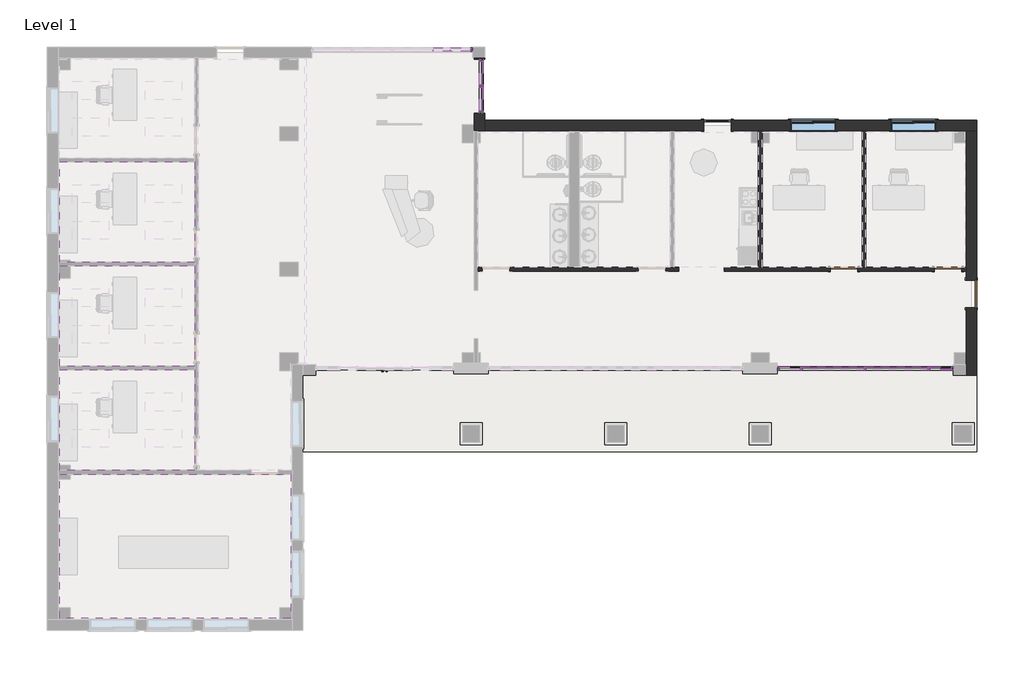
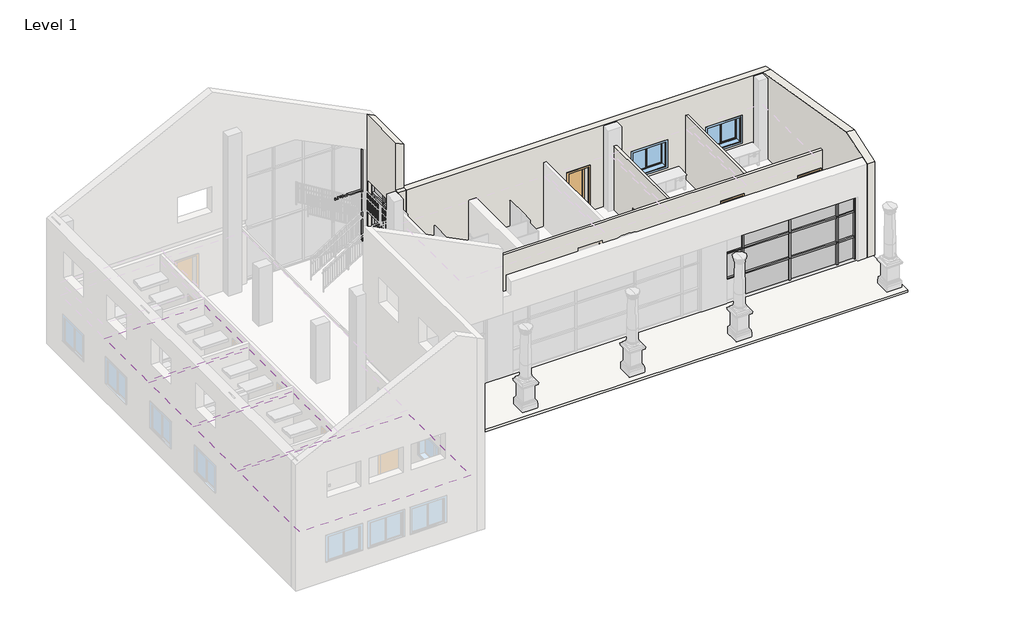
# One storey, part 3 of 8: 43 members, 14 plates, 6 walls, 4 coverings, 4 doors, 2 windows, 1 slab.
"""IFC4 building model written with IfcOpenShell, lengths in millimetres."""

from ifc_helpers import new_model, si_unit, point, frame, origin, origin_with_axes, place, context, project, spatial, polyline, ellipse_curve, trimmed, outline, extrude, faceted_brep, transform, mapped, element, save
from ifc_brep_helpers import plane_surface, extruded_surface, advanced_brep
from components import door_cc5399a4, door_88503111, door_14e9a3b2, member_a715cb85, member_2b49869a, member_4f1c84db, member_c7c5a8a0, member_a43dcf29, member_c4de40ee, member_75074519, member_13dc6413, member_3374d9b6, member_c17f1be2, member_f0fea5a5, member_ee409385, member_7fd7503d, member_c48a49bf, member_ba1b3d85, member_3ca69e07, member_338de68b, member_170a6c2d, member_29905024, member_21124f0b, member_e196a3dc, system_panel_glazed_93fe6fa7, system_panel_glazed_6ce5e085, system_panel_glazed_7b5ce646, system_panel_glazed_6c402c5f, system_panel_glazed_28aac04d, system_panel_glazed_c8a6c6c5, system_panel_glazed_ef97d2b3, system_panel_glazed_2372a917, system_panel_solid_fb0cd2a2, window_8313e728

model = new_model("IFC4")

# Units and contexts
model_context = context("Model", 3, world=origin())
ifc_project = project(units=[si_unit("LENGTHUNIT", "METRE", prefix="MILLI")], contexts=[model_context])

# Site, building, storey
site = spatial("IfcSite", under=ifc_project)
building = spatial("IfcBuilding", under=site)
storey = spatial("IfcBuildingStorey", under=building, Name="Level 1", Elevation=0.0)

# Coverings
placement = place(None, origin())
element("IfcCovering", 1, ObjectType="2' x 4' ACT System", at=placement, inside=storey, context=model_context, shape_type="SweptSolid", body=[
    extrude(outline(polyline([(-13532.9016552, 7087.3730424), (-9011.7016552, 7087.3730424), (-9011.7016552, 3729.8105424), (-13532.9016552, 3729.8105424), (-13532.9016552, 7087.3730424)]), holes=[polyline([(-11881.9016552, 5713.3917924), (-11881.9016552, 6322.9917924), (-13101.1016552, 6322.9917924), (-13101.1016552, 5713.3917924), (-11881.9016552, 5713.3917924)]), polyline([(-10662.7016552, 5713.3917924), (-9443.5016552, 5713.3917924), (-9443.5016552, 6322.9917924), (-10662.7016552, 6322.9917924), (-10662.7016552, 5713.3917924)]), polyline([(-10662.7016552, 4494.1917924), (-9443.5016552, 4494.1917924), (-9443.5016552, 5103.7917924), (-10662.7016552, 5103.7917924), (-10662.7016552, 4494.1917924)]), polyline([(-11881.9016552, 5103.7917924), (-13101.1016552, 5103.7917924), (-13101.1016552, 4494.1917924), (-11881.9016552, 4494.1917924), (-11881.9016552, 5103.7917924)])]), frame((0.0, 0.0, 2438.4), z_axis=(0.0, 0.0, 1.0), x_axis=(1.0, 0.0, 0.0)), (0.0, 0.0, 1.0), 57.15),
])
element("IfcCovering", 2, ObjectType="2' x 4' ACT System", at=placement, inside=storey, context=model_context, shape_type="SweptSolid", body=[
    extrude(outline(polyline([(-13532.9016552, 3605.9855424), (-9011.7016552, 3605.9855424), (-9011.7016552, 248.4230424), (-13532.9016552, 248.4230424), (-13532.9016552, 3605.9855424)]), holes=[polyline([(-11881.9016552, 2232.0042924), (-11881.9016552, 2841.6042924), (-13101.1016552, 2841.6042924), (-13101.1016552, 2232.0042924), (-11881.9016552, 2232.0042924)]), polyline([(-10662.7016552, 2232.0042924), (-9443.5016552, 2232.0042924), (-9443.5016552, 2841.6042924), (-10662.7016552, 2841.6042924), (-10662.7016552, 2232.0042924)]), polyline([(-10662.7016552, 1012.8042924), (-9443.5016552, 1012.8042924), (-9443.5016552, 1622.4042924), (-10662.7016552, 1622.4042924), (-10662.7016552, 1012.8042924)]), polyline([(-11881.9016552, 1622.4042924), (-13101.1016552, 1622.4042924), (-13101.1016552, 1012.8042924), (-11881.9016552, 1012.8042924), (-11881.9016552, 1622.4042924)])]), frame((0.0, 0.0, 2438.4), z_axis=(0.0, 0.0, 1.0), x_axis=(1.0, 0.0, 0.0)), (0.0, 0.0, 1.0), 57.15),
])
element("IfcCovering", 3, ObjectType="2' x 4' ACT System", at=placement, inside=storey, context=model_context, shape_type="SweptSolid", body=[
    extrude(outline(polyline([(-13532.9016552, 124.5980424), (-9011.7016552, 124.5980424), (-9011.7016552, -3232.9644576), (-13532.9016552, -3232.9644576), (-13532.9016552, 124.5980424)]), holes=[polyline([(-11881.9016552, -1249.3832076), (-11881.9016552, -639.7832076), (-13101.1016552, -639.7832076), (-13101.1016552, -1249.3832076), (-11881.9016552, -1249.3832076)]), polyline([(-10662.7016552, -1249.3832076), (-9443.5016552, -1249.3832076), (-9443.5016552, -639.7832076), (-10662.7016552, -639.7832076), (-10662.7016552, -1249.3832076)]), polyline([(-10662.7016552, -2468.5832076), (-9443.5016552, -2468.5832076), (-9443.5016552, -1858.9832076), (-10662.7016552, -1858.9832076), (-10662.7016552, -2468.5832076)]), polyline([(-11881.9016552, -1858.9832076), (-13101.1016552, -1858.9832076), (-13101.1016552, -2468.5832076), (-11881.9016552, -2468.5832076), (-11881.9016552, -1858.9832076)])]), frame((0.0, 0.0, 2438.4), z_axis=(0.0, 0.0, 1.0), x_axis=(1.0, 0.0, 0.0)), (0.0, 0.0, 1.0), 57.15),
])
element("IfcCovering", 4, ObjectType="5/8\" GWB on Mtl. Stud", at=placement, inside=storey, context=model_context, shape_type="SweptSolid", body=[
    extrude(outline(polyline([(-13532.9016552, -3356.7894576), (-5804.9516552, -3356.7894576), (-5804.9516552, -8182.7894576), (-13532.9016552, -8182.7894576), (-13532.9016552, -3356.7894576)])), frame((0.0, 0.0, 2438.4), z_axis=(0.0, 0.0, 1.0), x_axis=(1.0, 0.0, 0.0)), (0.0, 0.0, 1.0), 107.95),
])

# Doors
door_shape = door_cc5399a4(model_context)
element("IfcDoor", 5, ObjectType="Single-Flush : 36\" x 84\"", at=placement, inside=storey, context=model_context, shape_type="MappedRepresentation", body=[
    mapped(door_shape, transform((16977.2608448, 2672.5355424, 0.0), x_axis=(0.0, 1.0, 0.0), y_axis=(-1.0, 0.0, 0.0), z_axis=(0.0, 0.0, 1.0))),
])
door_2_shape = door_88503111(model_context)
element("IfcDoor", 6, ObjectType="Single-Flush : 36\" x 84\"", at=placement, inside=storey, context=model_context, shape_type="MappedRepresentation", body=[
    mapped(door_2_shape, transform((16191.4483448, 3496.4480424, 0.0), x_axis=(1.0, 0.0, 0.0), y_axis=(0.0, 1.0, 0.0), z_axis=(0.0, 0.0, 1.0))),
])
element("IfcDoor", 7, ObjectType="Single-Flush : 36\" x 84\"", at=placement, inside=storey, context=model_context, shape_type="MappedRepresentation", body=[
    mapped(door_2_shape, transform((12714.8233448, 3496.4480424, 0.0), x_axis=(1.0, 0.0, 0.0), y_axis=(0.0, 1.0, 0.0), z_axis=(0.0, 0.0, 1.0))),
])
door_3_shape = door_14e9a3b2(model_context)
element("IfcDoor", 8, ObjectType="Single-Glass 1 : 36\" x 84\"", at=placement, inside=storey, context=model_context, shape_type="MappedRepresentation", body=[
    mapped(door_3_shape, transform((8476.1983448, 8306.5730424, 0.0), x_axis=(1.0, 0.0, 0.0), y_axis=(0.0, 1.0, 0.0), z_axis=(0.0, 0.0, 1.0))),
])

# Members
member_shape = member_a715cb85(model_context)
element("IfcMember", 9, ObjectType="Rectangular Mullion : 2.5\" x 5\" Rectangular", at=placement, inside=storey, context=model_context, shape_type="MappedRepresentation", body=[
    mapped(member_shape, transform((10519.3108448, 175.3980424, 0.0), x_axis=(1.0, 0.0, 0.0), y_axis=(0.0, -1.0, 0.0), z_axis=(0.0, 0.0, -1.0))),
])
element("IfcMember", 10, ObjectType="Rectangular Mullion : 2.5\" x 5\" Rectangular", at=placement, inside=storey, context=model_context, shape_type="MappedRepresentation", body=[
    mapped(member_shape, transform((11281.3108448, 175.3980424, 0.0), x_axis=(1.0, 0.0, 0.0), y_axis=(0.0, -1.0, 0.0), z_axis=(0.0, 0.0, -1.0))),
])
element("IfcMember", 11, ObjectType="Rectangular Mullion : 2.5\" x 5\" Rectangular", at=placement, inside=storey, context=model_context, shape_type="MappedRepresentation", body=[
    mapped(member_shape, transform((13414.9108448, 175.3980424, 0.0), x_axis=(1.0, 0.0, 0.0), y_axis=(0.0, -1.0, 0.0), z_axis=(0.0, 0.0, -1.0))),
])
element("IfcMember", 12, ObjectType="Rectangular Mullion : 2.5\" x 5\" Rectangular", at=placement, inside=storey, context=model_context, shape_type="MappedRepresentation", body=[
    mapped(member_shape, transform((15548.5108448, 175.3980424, 0.0), x_axis=(1.0, 0.0, 0.0), y_axis=(0.0, -1.0, 0.0), z_axis=(0.0, 0.0, -1.0))),
])
member_2_shape = member_2b49869a(model_context)
element("IfcMember", 13, ObjectType="Rectangular Mullion : 2.5\" x 5\" Rectangular", at=placement, inside=storey, context=model_context, shape_type="MappedRepresentation", body=[
    mapped(member_2_shape, transform((10519.3108448, 175.3980424, 1066.8), x_axis=(1.0, 0.0, 0.0), y_axis=(0.0, -1.0, 0.0), z_axis=(0.0, 0.0, -1.0))),
])
element("IfcMember", 14, ObjectType="Rectangular Mullion : 2.5\" x 5\" Rectangular", at=placement, inside=storey, context=model_context, shape_type="MappedRepresentation", body=[
    mapped(member_2_shape, transform((11281.3108448, 175.3980424, 1066.8), x_axis=(1.0, 0.0, 0.0), y_axis=(0.0, -1.0, 0.0), z_axis=(0.0, 0.0, -1.0))),
])
element("IfcMember", 15, ObjectType="Rectangular Mullion : 2.5\" x 5\" Rectangular", at=placement, inside=storey, context=model_context, shape_type="MappedRepresentation", body=[
    mapped(member_2_shape, transform((13414.9108448, 175.3980424, 1066.8), x_axis=(1.0, 0.0, 0.0), y_axis=(0.0, -1.0, 0.0), z_axis=(0.0, 0.0, -1.0))),
])
element("IfcMember", 16, ObjectType="Rectangular Mullion : 2.5\" x 5\" Rectangular", at=placement, inside=storey, context=model_context, shape_type="MappedRepresentation", body=[
    mapped(member_2_shape, transform((15548.5108448, 175.3980424, 1066.8), x_axis=(1.0, 0.0, 0.0), y_axis=(0.0, -1.0, 0.0), z_axis=(0.0, 0.0, -1.0))),
])
member_3_shape = member_4f1c84db(model_context)
element("IfcMember", 17, ObjectType="Rectangular Mullion : 2.5\" x 5\" Rectangular", at=placement, inside=storey, context=model_context, shape_type="MappedRepresentation", body=[
    mapped(member_3_shape, transform((15516.7608448, 175.3980424, 2286.0), x_axis=(0.0, 0.0, 1.0), y_axis=(0.0, -1.0, 0.0), z_axis=(1.0, 0.0, 0.0))),
])
element("IfcMember", 18, ObjectType="Rectangular Mullion : 2.5\" x 5\" Rectangular", at=placement, inside=storey, context=model_context, shape_type="MappedRepresentation", body=[
    mapped(member_3_shape, transform((13383.1608448, 175.3980424, 2286.0), x_axis=(0.0, 0.0, 1.0), y_axis=(0.0, -1.0, 0.0), z_axis=(1.0, 0.0, 0.0))),
])
element("IfcMember", 19, ObjectType="Rectangular Mullion : 2.5\" x 5\" Rectangular", at=placement, inside=storey, context=model_context, shape_type="MappedRepresentation", body=[
    mapped(member_3_shape, transform((13383.1608448, 175.3980424, 1066.8), x_axis=(0.0, 0.0, 1.0), y_axis=(0.0, -1.0, 0.0), z_axis=(1.0, 0.0, 0.0))),
])
element("IfcMember", 20, ObjectType="Rectangular Mullion : 2.5\" x 5\" Rectangular", at=placement, inside=storey, context=model_context, shape_type="MappedRepresentation", body=[
    mapped(member_3_shape, transform((15516.7608448, 175.3980424, 1066.8), x_axis=(0.0, 0.0, 1.0), y_axis=(0.0, -1.0, 0.0), z_axis=(1.0, 0.0, 0.0))),
])
member_4_shape = member_c7c5a8a0(model_context)
element("IfcMember", 21, ObjectType="Rectangular Mullion : 2.5\" x 5\" Rectangular", at=placement, inside=storey, context=model_context, shape_type="MappedRepresentation", body=[
    mapped(member_4_shape, transform((11249.5608448, 175.3980424, 2286.0), x_axis=(0.0, 0.0, 1.0), y_axis=(0.0, -1.0, 0.0), z_axis=(1.0, 0.0, 0.0))),
])
element("IfcMember", 22, ObjectType="Rectangular Mullion : 2.5\" x 5\" Rectangular", at=placement, inside=storey, context=model_context, shape_type="MappedRepresentation", body=[
    mapped(member_4_shape, transform((11249.5608448, 175.3980424, 1066.8), x_axis=(0.0, 0.0, 1.0), y_axis=(0.0, -1.0, 0.0), z_axis=(1.0, 0.0, 0.0))),
])
member_5_shape = member_a43dcf29(model_context)
element("IfcMember", 23, ObjectType="Rectangular Mullion : 2.5\" x 5\" Rectangular", at=placement, inside=storey, context=model_context, shape_type="MappedRepresentation", body=[
    mapped(member_5_shape, transform((16304.1608448, 175.3980424, 2286.0), x_axis=(0.0, 0.0, 1.0), y_axis=(0.0, -1.0, 0.0), z_axis=(1.0, 0.0, 0.0))),
])
element("IfcMember", 24, ObjectType="Rectangular Mullion : 2.5\" x 5\" Rectangular", at=placement, inside=storey, context=model_context, shape_type="MappedRepresentation", body=[
    mapped(member_5_shape, transform((16304.1608448, 175.3980424, 1066.8), x_axis=(0.0, 0.0, 1.0), y_axis=(0.0, -1.0, 0.0), z_axis=(1.0, 0.0, 0.0))),
])
member_6_shape = member_c4de40ee(model_context)
element("IfcMember", 25, ObjectType="Rectangular Mullion : 2.5\" x 5\" Rectangular", at=placement, inside=storey, context=model_context, shape_type="MappedRepresentation", body=[
    mapped(member_6_shape, transform((16367.6608448, 175.3980424, 0.0), x_axis=(1.0, 0.0, 0.0), y_axis=(0.0, -1.0, 0.0), z_axis=(0.0, 0.0, -1.0))),
])
member_7_shape = member_75074519(model_context)
element("IfcMember", 26, ObjectType="Rectangular Mullion : 2.5\" x 5\" Rectangular", at=placement, inside=storey, context=model_context, shape_type="MappedRepresentation", body=[
    mapped(member_7_shape, transform((16367.6608448, 175.3980424, 1066.8), x_axis=(1.0, 0.0, 0.0), y_axis=(0.0, -1.0, 0.0), z_axis=(0.0, 0.0, -1.0))),
])
member_8_shape = member_13dc6413(model_context)
element("IfcMember", 27, ObjectType="Rectangular Mullion : 2.5\" x 5\" Rectangular", at=placement, inside=storey, context=model_context, shape_type="MappedRepresentation", body=[
    mapped(member_8_shape, transform((11281.3108448, 175.3980424, 3060.0), x_axis=(0.0, 0.0, 1.0), y_axis=(0.0, -1.0, 0.0), z_axis=(1.0, 0.0, 0.0))),
])
member_9_shape = member_3374d9b6(model_context)
element("IfcMember", 28, ObjectType="Rectangular Mullion : 2.5\" x 5\" Rectangular", at=placement, inside=storey, context=model_context, shape_type="MappedRepresentation", body=[
    mapped(member_9_shape, transform((15548.5108448, 175.3980424, 3060.0), x_axis=(0.0, 0.0, 1.0), y_axis=(0.0, -1.0, 0.0), z_axis=(1.0, 0.0, 0.0))),
])
element("IfcMember", 29, ObjectType="Rectangular Mullion : 2.5\" x 5\" Rectangular", at=placement, inside=storey, context=model_context, shape_type="MappedRepresentation", body=[
    mapped(member_9_shape, transform((13414.9108448, 175.3980424, 3060.0), x_axis=(0.0, 0.0, 1.0), y_axis=(0.0, -1.0, 0.0), z_axis=(1.0, 0.0, 0.0))),
])
member_10_shape = member_c17f1be2(model_context)
element("IfcMember", 30, ObjectType="Rectangular Mullion : 2.5\" x 5\" Rectangular", at=placement, inside=storey, context=model_context, shape_type="MappedRepresentation", body=[
    mapped(member_10_shape, transform((16367.6608448, 175.3980424, 3060.0), x_axis=(0.0, 0.0, 1.0), y_axis=(0.0, -1.0, 0.0), z_axis=(1.0, 0.0, 0.0))),
])
member_11_shape = member_f0fea5a5(model_context)
element("IfcMember", 31, ObjectType="Rectangular Mullion : 2.5\" x 5\" Rectangular", at=placement, inside=storey, context=model_context, shape_type="MappedRepresentation", body=[
    mapped(member_11_shape, transform((581.5608448, 9615.4667924, 0.0), x_axis=(0.0, -1.0, 0.0), y_axis=(-1.0, 0.0, 0.0), z_axis=(0.0, 0.0, -1.0))),
])
member_12_shape = member_ee409385(model_context)
element("IfcMember", 32, ObjectType="Rectangular Mullion : 2.5\" x 5\" Rectangular", at=placement, inside=storey, context=model_context, shape_type="MappedRepresentation", body=[
    mapped(member_12_shape, transform((291.0483448, 10846.5730424, 0.0), x_axis=(1.0, 0.0, 0.0), y_axis=(0.0, -1.0, 0.0), z_axis=(0.0, 0.0, -1.0))),
])
element("IfcMember", 33, ObjectType="Rectangular Mullion : 2.5\" x 5\" Rectangular", at=placement, inside=storey, context=model_context, shape_type="MappedRepresentation", body=[
    mapped(member_12_shape, transform((581.5608448, 8712.9730424, 0.0), x_axis=(0.0, -1.0, 0.0), y_axis=(-1.0, 0.0, 0.0), z_axis=(0.0, 0.0, -1.0))),
])
element("IfcMember", 34, ObjectType="Rectangular Mullion : 2.5\" x 5\" Rectangular", at=placement, inside=storey, context=model_context, shape_type="MappedRepresentation", body=[
    mapped(member_12_shape, transform((581.5608448, 10517.9605424, 2438.4), x_axis=(0.0, 1.0, 0.0), y_axis=(-1.0, 0.0, 0.0), z_axis=(0.0, 0.0, 1.0))),
])
member_13_shape = member_7fd7503d(model_context)
element("IfcMember", 35, ObjectType="Rectangular Mullion : 2.5\" x 5\" Rectangular", at=placement, inside=storey, context=model_context, shape_type="MappedRepresentation", body=[
    mapped(member_13_shape, transform((581.5608448, 8776.4730424, 3060.0), x_axis=(0.0, 0.0, 1.0), y_axis=(-1.0, 0.0, 0.0), z_axis=(0.0, -1.0, 0.0))),
])
element("IfcMember", 36, ObjectType="Rectangular Mullion : 2.5\" x 5\" Rectangular", at=placement, inside=storey, context=model_context, shape_type="MappedRepresentation", body=[
    mapped(member_13_shape, transform((581.5608448, 9647.2167924, 3060.0), x_axis=(0.0, 0.0, 1.0), y_axis=(-1.0, 0.0, 0.0), z_axis=(0.0, -1.0, 0.0))),
])
element("IfcMember", 37, ObjectType="Rectangular Mullion : 2.5\" x 5\" Rectangular", at=placement, inside=storey, context=model_context, shape_type="MappedRepresentation", body=[
    mapped(member_13_shape, transform((581.5608448, 10454.4605424, 0.0), x_axis=(0.0, 0.0, -1.0), y_axis=(-1.0, 0.0, 0.0), z_axis=(0.0, 1.0, 0.0))),
])
element("IfcMember", 38, ObjectType="Rectangular Mullion : 2.5\" x 5\" Rectangular", at=placement, inside=storey, context=model_context, shape_type="MappedRepresentation", body=[
    mapped(member_13_shape, transform((581.5608448, 9583.7167924, 0.0), x_axis=(0.0, 0.0, -1.0), y_axis=(-1.0, 0.0, 0.0), z_axis=(0.0, 1.0, 0.0))),
])
member_14_shape = member_c48a49bf(model_context)
element("IfcMember", 39, ObjectType="Rectangular Mullion : 2.5\" x 5\" Rectangular", at=placement, inside=storey, context=model_context, shape_type="MappedRepresentation", body=[
    mapped(member_14_shape, transform((581.5608448, 9647.2167924, 2438.4), x_axis=(0.0, 0.0, 1.0), y_axis=(-1.0, 0.0, 0.0), z_axis=(0.0, -1.0, 0.0))),
])
element("IfcMember", 40, ObjectType="Rectangular Mullion : 2.5\" x 5\" Rectangular", at=placement, inside=storey, context=model_context, shape_type="MappedRepresentation", body=[
    mapped(member_14_shape, transform((581.5608448, 8776.4730424, 2438.4), x_axis=(0.0, 0.0, 1.0), y_axis=(-1.0, 0.0, 0.0), z_axis=(0.0, -1.0, 0.0))),
])
member_15_shape = member_ba1b3d85(model_context)
element("IfcMember", 41, ObjectType="Rectangular Mullion : 2.5\" x 5\" Rectangular", at=placement, inside=storey, context=model_context, shape_type="MappedRepresentation", body=[
    mapped(member_15_shape, transform((227.5483448, 10846.5730424, 2438.4), x_axis=(0.0, 0.0, 1.0), y_axis=(0.0, -1.0, 0.0), z_axis=(1.0, 0.0, 0.0))),
])
member_16_shape = member_3ca69e07(model_context)
element("IfcMember", 42, ObjectType="Rectangular Mullion : 2.5\" x 5\" Rectangular", at=placement, inside=storey, context=model_context, shape_type="MappedRepresentation", body=[
    mapped(member_16_shape, transform((10519.3108448, 175.3980424, 2286.0), x_axis=(1.0, 0.0, 0.0), y_axis=(0.0, -1.0, 0.0), z_axis=(0.0, 0.0, -1.0))),
])
element("IfcMember", 43, ObjectType="Rectangular Mullion : 2.5\" x 5\" Rectangular", at=placement, inside=storey, context=model_context, shape_type="MappedRepresentation", body=[
    mapped(member_16_shape, transform((11281.3108448, 175.3980424, 2286.0), x_axis=(1.0, 0.0, 0.0), y_axis=(0.0, -1.0, 0.0), z_axis=(0.0, 0.0, -1.0))),
])
element("IfcMember", 44, ObjectType="Rectangular Mullion : 2.5\" x 5\" Rectangular", at=placement, inside=storey, context=model_context, shape_type="MappedRepresentation", body=[
    mapped(member_16_shape, transform((13414.9108448, 175.3980424, 2286.0), x_axis=(1.0, 0.0, 0.0), y_axis=(0.0, -1.0, 0.0), z_axis=(0.0, 0.0, -1.0))),
])
element("IfcMember", 45, ObjectType="Rectangular Mullion : 2.5\" x 5\" Rectangular", at=placement, inside=storey, context=model_context, shape_type="MappedRepresentation", body=[
    mapped(member_16_shape, transform((15548.5108448, 175.3980424, 2286.0), x_axis=(1.0, 0.0, 0.0), y_axis=(0.0, -1.0, 0.0), z_axis=(0.0, 0.0, -1.0))),
])
member_17_shape = member_338de68b(model_context)
element("IfcMember", 46, ObjectType="Rectangular Mullion : 2.5\" x 5\" Rectangular", at=placement, inside=storey, context=model_context, shape_type="MappedRepresentation", body=[
    mapped(member_17_shape, transform((16367.6608448, 175.3980424, 2286.0), x_axis=(1.0, 0.0, 0.0), y_axis=(0.0, -1.0, 0.0), z_axis=(0.0, 0.0, -1.0))),
])
member_18_shape = member_170a6c2d(model_context)
element("IfcMember", 47, ObjectType="Rectangular Mullion : 2.5\" x 5\" Rectangular", at=placement, inside=storey, context=model_context, shape_type="MappedRepresentation", body=[
    mapped(member_18_shape, transform((291.0483448, 10846.5730424, 4512.0662011), x_axis=(0.4472135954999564, 0.0, 0.8944271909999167), y_axis=(0.0, -1.0, 0.0), z_axis=(0.8944271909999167, 0.0, -0.4472135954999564))),
])
member_19_shape = member_29905024(model_context)
element("IfcMember", 48, ObjectType="Rectangular Mullion : 2.5\" x 5\" Rectangular", at=placement, inside=storey, context=model_context, shape_type="MappedRepresentation", body=[
    mapped(member_19_shape, transform((291.0483448, 10846.5730424, 2438.4), x_axis=(1.0, 0.0, 0.0), y_axis=(0.0, -1.0, 0.0), z_axis=(0.0, 0.0, -1.0))),
])
member_20_shape = member_21124f0b(model_context)
element("IfcMember", 49, ObjectType="Rectangular Mullion : 2.5\" x 5\" Rectangular", at=placement, inside=storey, context=model_context, shape_type="MappedRepresentation", body=[
    mapped(member_20_shape, transform((581.5608448, 9615.4667924, 2438.4), x_axis=(0.0, -1.0, 0.0), y_axis=(-1.0, 0.0, 0.0), z_axis=(0.0, 0.0, -1.0))),
])
member_21_shape = member_e196a3dc(model_context)
element("IfcMember", 50, ObjectType="Rectangular Mullion : 2.5\" x 5\" Rectangular", at=placement, inside=storey, context=model_context, shape_type="MappedRepresentation", body=[
    mapped(member_21_shape, transform((581.5608448, 8712.9730424, 2438.4), x_axis=(0.0, -1.0, 0.0), y_axis=(-1.0, 0.0, 0.0), z_axis=(0.0, 0.0, -1.0))),
])
element("IfcMember", 51, ObjectType="Rectangular Mullion : 2.5\" x 5\" Rectangular", at=placement, inside=storey, context=model_context, shape_type="MappedRepresentation", body=[
    mapped(member_21_shape, transform((581.5608448, 10517.9605424, 3060.0), x_axis=(0.0, 1.0, 0.0), y_axis=(-1.0, 0.0, 0.0), z_axis=(0.0, 0.0, 1.0))),
])

# Plates
system_panel_glazed_shape = system_panel_glazed_93fe6fa7(model_context)
element("IfcPlate", 52, ObjectType="System Panel : Glazed", at=placement, inside=storey, context=model_context, shape_type="MappedRepresentation", body=[
    mapped(system_panel_glazed_shape, transform((12348.1108448, 175.3980424, 0.0), x_axis=(1.0, 0.0, 0.0), y_axis=(0.0, 1.0, 0.0), z_axis=(0.0, 0.0, 1.0))),
])
element("IfcPlate", 53, ObjectType="System Panel : Glazed", at=placement, inside=storey, context=model_context, shape_type="MappedRepresentation", body=[
    mapped(system_panel_glazed_shape, transform((14481.7108448, 175.3980424, 0.0), x_axis=(1.0, 0.0, 0.0), y_axis=(0.0, 1.0, 0.0), z_axis=(0.0, 0.0, 1.0))),
])
system_panel_glazed_2_shape = system_panel_glazed_6ce5e085(model_context)
element("IfcPlate", 54, ObjectType="System Panel : Glazed", at=placement, inside=storey, context=model_context, shape_type="MappedRepresentation", body=[
    mapped(system_panel_glazed_2_shape, transform((12348.1108448, 175.3980424, 1098.55), x_axis=(1.0, 0.0, 0.0), y_axis=(0.0, 1.0, 0.0), z_axis=(0.0, 0.0, 1.0))),
])
element("IfcPlate", 55, ObjectType="System Panel : Glazed", at=placement, inside=storey, context=model_context, shape_type="MappedRepresentation", body=[
    mapped(system_panel_glazed_2_shape, transform((14481.7108448, 175.3980424, 1098.55), x_axis=(1.0, 0.0, 0.0), y_axis=(0.0, 1.0, 0.0), z_axis=(0.0, 0.0, 1.0))),
])
system_panel_glazed_3_shape = system_panel_glazed_7b5ce646(model_context)
element("IfcPlate", 56, ObjectType="System Panel : Glazed", at=placement, inside=storey, context=model_context, shape_type="MappedRepresentation", body=[
    mapped(system_panel_glazed_3_shape, transform((10900.3108448, 175.3980424, 1098.55), x_axis=(1.0, 0.0, 0.0), y_axis=(0.0, 1.0, 0.0), z_axis=(0.0, 0.0, 1.0))),
])
system_panel_glazed_4_shape = system_panel_glazed_6c402c5f(model_context)
element("IfcPlate", 57, ObjectType="System Panel : Glazed", at=placement, inside=storey, context=model_context, shape_type="MappedRepresentation", body=[
    mapped(system_panel_glazed_4_shape, transform((15942.2108448, 175.3980424, 0.0), x_axis=(1.0, 0.0, 0.0), y_axis=(0.0, 1.0, 0.0), z_axis=(0.0, 0.0, 1.0))),
])
system_panel_glazed_5_shape = system_panel_glazed_28aac04d(model_context)
element("IfcPlate", 58, ObjectType="System Panel : Glazed", at=placement, inside=storey, context=model_context, shape_type="MappedRepresentation", body=[
    mapped(system_panel_glazed_5_shape, transform((15942.2108448, 175.3980424, 1098.55), x_axis=(1.0, 0.0, 0.0), y_axis=(0.0, 1.0, 0.0), z_axis=(0.0, 0.0, 1.0))),
])
system_panel_glazed_6_shape = system_panel_glazed_c8a6c6c5(model_context)
element("IfcPlate", 59, ObjectType="System Panel : Glazed", at=placement, inside=storey, context=model_context, shape_type="MappedRepresentation", body=[
    mapped(system_panel_glazed_6_shape, transform((581.5608448, 10050.8386674, 63.5), x_axis=(0.0, -1.0, 0.0), y_axis=(1.0, 0.0, 0.0), z_axis=(0.0, 0.0, 1.0))),
])
element("IfcPlate", 60, ObjectType="System Panel : Glazed", at=placement, inside=storey, context=model_context, shape_type="MappedRepresentation", body=[
    mapped(system_panel_glazed_6_shape, transform((581.5608448, 9180.0949174, 63.5), x_axis=(0.0, -1.0, 0.0), y_axis=(1.0, 0.0, 0.0), z_axis=(0.0, 0.0, 1.0))),
])
system_panel_glazed_7_shape = system_panel_glazed_ef97d2b3(model_context)
element("IfcPlate", 61, ObjectType="System Panel : Glazed", at=placement, inside=storey, context=model_context, shape_type="MappedRepresentation", body=[
    mapped(system_panel_glazed_7_shape, transform((12348.1108448, 175.3980424, 2317.75), x_axis=(1.0, 0.0, 0.0), y_axis=(0.0, 1.0, 0.0), z_axis=(0.0, 0.0, 1.0))),
])
element("IfcPlate", 62, ObjectType="System Panel : Glazed", at=placement, inside=storey, context=model_context, shape_type="MappedRepresentation", body=[
    mapped(system_panel_glazed_7_shape, transform((14481.7108448, 175.3980424, 2317.75), x_axis=(1.0, 0.0, 0.0), y_axis=(0.0, 1.0, 0.0), z_axis=(0.0, 0.0, 1.0))),
])
system_panel_glazed_8_shape = system_panel_glazed_2372a917(model_context)
element("IfcPlate", 63, ObjectType="System Panel : Glazed", at=placement, inside=storey, context=model_context, shape_type="MappedRepresentation", body=[
    mapped(system_panel_glazed_8_shape, transform((581.5608448, 10050.8386674, 2470.15), x_axis=(0.0, -1.0, 0.0), y_axis=(1.0, 0.0, 0.0), z_axis=(0.0, 0.0, 1.0))),
])
element("IfcPlate", 64, ObjectType="System Panel : Glazed", at=placement, inside=storey, context=model_context, shape_type="MappedRepresentation", body=[
    mapped(system_panel_glazed_8_shape, transform((581.5608448, 9180.0949174, 2470.15), x_axis=(0.0, -1.0, 0.0), y_axis=(1.0, 0.0, 0.0), z_axis=(0.0, 0.0, 1.0))),
])
system_panel_solid_shape = system_panel_solid_fb0cd2a2(model_context)
element("IfcPlate", 65, ObjectType="System Panel : Solid", at=placement, inside=storey, context=model_context, shape_type="MappedRepresentation", body=[
    mapped(system_panel_solid_shape, transform((15942.2108448, 175.3980424, 2317.75), x_axis=(1.0, 0.0, 0.0), y_axis=(0.0, 1.0, 0.0), z_axis=(0.0, 0.0, 1.0))),
])

# Slab
element("IfcSlab", 66, ObjectType="4\" Concrete Slab", at=placement, inside=storey, context=model_context, shape_type="SweptSolid", body=[
    extrude(outline(polyline([(17153.4733448, 124.5980424), (17153.4733448, -2618.6019576), (-5401.7266552, -2618.6019576), (-5401.7266552, 124.5980424), (17153.4733448, 124.5980424)])), frame((0.0, 0.0, -203.2), z_axis=(0.0, 0.0, 1.0), x_axis=(1.0, 0.0, 0.0)), (0.0, 0.0, 1.0), 101.6),
])

# Walls
element("IfcWall", 67, ObjectType="Exterior - Brick on Mtl. Stud", at=placement, inside=storey, context=model_context, shape_type="Brep", body=[
    faceted_brep([(341.8483448, 8306.5730424, 6182.55), (341.8483448, 10568.7605424, 6182.55), (341.8483448, 10568.7605424, 0.0), (341.8483448, 10517.9605424, 0.0), (341.8483448, 10517.9605424, 3060.0), (341.8483448, 8712.9730424, 3060.0), (341.8483448, 8712.9730424, 0.0), (341.8483448, 8333.5605424, 0.0), (341.8483448, 8130.3605424, 0.0), (341.8483448, 8130.3605424, 3060.0), (341.8483448, 8130.3605424, 3918.7375), (341.8483448, 8306.5730424, 3918.7375), (694.2733448, 10568.7605424, 6006.3375), (694.2733448, 8306.5730424, 6006.3375), (694.2733448, 8306.5730424, 3918.7375), (694.2733448, 8130.3605424, 3918.7375), (694.2733448, 8130.3605424, 3060.0), (694.2733448, 8130.3605424, 0.0), (694.2733448, 8482.7855424, 0.0), (694.2733448, 8712.9730424, 0.0), (694.2733448, 8712.9730424, 3060.0), (694.2733448, 10517.9605424, 3060.0), (694.2733448, 10517.9605424, 0.0), (694.2733448, 10568.7605424, 0.0), (545.0483448, 8130.3605424, 0.0), (465.6733448, 8130.3605424, 0.0)], [[[0, 1, 2, 3, 4, 5, 6, 7, 8, 9, 10, 11]], [[12, 13, 14, 15, 16, 17, 18, 19, 20, 21, 22, 23]], [[2, 23, 22, 3]], [[17, 24, 25, 8, 7, 6, 19, 18]], [[1, 0, 13, 12]], [[13, 0, 11, 14]], [[14, 11, 10, 15]], [[8, 25, 24, 17, 16, 15, 10, 9]], [[2, 1, 12, 23]], [[21, 4, 3, 22]], [[4, 21, 20, 5]], [[5, 20, 19, 6]]]),
])
element("IfcWall", 68, ObjectType="Exterior - Brick on Mtl. Stud", at=placement, inside=storey, context=model_context, shape_type="Brep", body=[
    faceted_brep([(8933.3983448, 8130.3605424, 2133.6), (8933.3983448, 8130.3605424, 0.0), (9604.9108448, 8130.3605424, 0.0), (9847.7983448, 8130.3605424, 0.0), (9971.6233448, 8130.3605424, 0.0), (10214.5108448, 8130.3605424, 0.0), (13324.4233448, 8130.3605424, 0.0), (13448.2483448, 8130.3605424, 0.0), (16394.6483448, 8130.3605424, 0.0), (16801.0483448, 8130.3605424, 0.0), (17153.4733448, 8130.3605424, 0.0), (17153.4733448, 8130.3605424, 3918.7375), (16801.0483448, 8130.3605424, 3918.7375), (694.2733448, 8130.3605424, 3918.7375), (694.2733448, 8130.3605424, 0.0), (3513.6733448, 8130.3605424, 0.0), (3856.5733448, 8130.3605424, 0.0), (6904.5733448, 8130.3605424, 0.0), (7028.3983448, 8130.3605424, 0.0), (8018.9983448, 8130.3605424, 0.0), (8018.9983448, 8130.3605424, 2133.6), (12444.9483448, 8130.3605424, 2133.6), (12444.9483448, 8130.3605424, 914.4), (10920.9483448, 8130.3605424, 914.4), (10920.9483448, 8130.3605424, 2133.6), (15804.0983448, 8130.3605424, 2133.6), (15804.0983448, 8130.3605424, 914.4), (14280.0983448, 8130.3605424, 914.4), (14280.0983448, 8130.3605424, 2133.6), (17153.4733448, 8482.7855424, 0.0), (8933.3983448, 8482.7855424, 0.0), (8933.3983448, 8482.7855424, 2133.6), (8018.9983448, 8482.7855424, 2133.6), (8018.9983448, 8482.7855424, 0.0), (694.2733448, 8482.7855424, 0.0), (694.2733448, 8482.7855424, 3860.0), (17153.4733448, 8482.7855424, 3860.0), (12444.9483448, 8482.7855424, 2133.6), (10920.9483448, 8482.7855424, 2133.6), (10920.9483448, 8482.7855424, 914.4), (12444.9483448, 8482.7855424, 914.4), (15804.0983448, 8482.7855424, 2133.6), (14280.0983448, 8482.7855424, 2133.6), (14280.0983448, 8482.7855424, 914.4), (15804.0983448, 8482.7855424, 914.4)], [[[0, 1, 2, 3, 4, 5, 6, 7, 8, 9, 10, 11, 12, 13, 14, 15, 16, 17, 18, 19, 20], [21, 22, 23, 24], [25, 26, 27, 28]], [[29, 30, 31, 32, 33, 34, 35, 36], [37, 38, 39, 40], [41, 42, 43, 44]], [[10, 9, 8, 7, 6, 5, 4, 3, 2, 1, 30, 29]], [[19, 18, 17, 16, 15, 14, 34, 33]], [[31, 30, 1, 0]], [[32, 31, 0, 20]], [[33, 32, 20, 19]], [[22, 21, 37, 40]], [[23, 22, 40, 39]], [[24, 23, 39, 38]], [[21, 24, 38, 37]], [[26, 25, 41, 44]], [[27, 26, 44, 43]], [[28, 27, 43, 42]], [[25, 28, 42, 41]], [[11, 10, 29, 36]], [[13, 35, 34, 14]], [[13, 12, 11, 36, 35]]]),
])
element("IfcWall", 69, ObjectType="Exterior - Brick on Mtl. Stud", at=placement, inside=storey, context=model_context, shape_type="Brep", body=[
    faceted_brep([(16801.0483448, 8130.3605424, 0.0), (16801.0483448, 7723.9605424, 0.0), (16801.0483448, 3558.3605424, 0.0), (16801.0483448, 3434.5355424, 0.0), (16801.0483448, 3129.7355424, 0.0), (16801.0483448, 3129.7355424, 2133.6), (16801.0483448, 2215.3355424, 2133.6), (16801.0483448, 2215.3355424, 0.0), (16801.0483448, 707.2105424, 0.0), (16801.0483448, 300.8105424, 0.0), (16801.0483448, -51.6144576, 0.0), (16801.0483448, -51.6144576, 4469.6), (16801.0483448, 300.8105424, 4587.075), (16801.0483448, 1573.9855424, 5011.4666667), (16801.0483448, 8130.3605424, 3918.7375), (16801.0483448, 8130.3605424, 3860.0), (17153.4733448, 3129.7355424, 2133.6), (17153.4733448, 3129.7355424, 0.0), (17153.4733448, 8130.3605424, 0.0), (17153.4733448, 8130.3605424, 3918.7375), (17153.4733448, 1573.9855424, 5011.4666667), (17153.4733448, -51.6144576, 4469.6), (17153.4733448, -51.6144576, 0.0), (17153.4733448, 2215.3355424, 0.0), (17153.4733448, 2215.3355424, 2133.6)], [[[0, 1, 2, 3, 4, 5, 6, 7, 8, 9, 10, 11, 12, 13, 14, 15]], [[16, 17, 18, 19, 20, 21, 22, 23, 24]], [[23, 22, 10, 9, 8, 7]], [[18, 17, 4, 3, 2, 1, 0]], [[5, 4, 17, 16]], [[6, 5, 16, 24]], [[7, 6, 24, 23]], [[14, 13, 20, 19]], [[13, 12, 11, 21, 20]], [[11, 10, 22, 21]], [[0, 15, 14, 19, 18]]]),
])
element("IfcWall", 70, ObjectType="Interior - 4 7/8\" Partition (1-hr)", at=placement, inside=storey, context=model_context, shape_type="AdvancedBrep", body=[
    advanced_brep(
    [(6752.1733448, 3434.5355424, 0.0), (7180.7983448, 3434.5355424, 0.0), (7180.7983448, 3434.5355424, 1828.8), (8704.7983448, 3434.5355424, 1828.8), (8704.7983448, 3434.5355424, 0.0), (12257.6233448, 3434.5355424, 0.0), (12257.6233448, 3434.5355424, 2133.6), (13172.0233448, 3434.5355424, 2133.6), (13172.0233448, 3434.5355424, 0.0), (15734.2483448, 3434.5355424, 0.0), (15734.2483448, 3434.5355424, 2133.6), (16648.6483448, 3434.5355424, 2133.6), (16648.6483448, 3434.5355424, 0.0), (16801.0483448, 3434.5355424, 0.0), (16801.0483448, 3434.5355424, 3060.0), (465.6733448, 3434.5355424, 3060.0), (465.6733448, 3434.5355424, 0.0), (618.0733448, 3434.5355424, 0.0), (618.0733448, 3434.5355424, 2133.6), (1532.4733448, 3434.5355424, 2133.6), (1532.4733448, 3434.5355424, 0.0), (5837.7733448, 3434.5355424, 0.0), (5837.7733448, 3434.5355424, 2133.6), (6752.1733448, 3434.5355424, 2133.6), (7180.7983448, 3558.3605424, 1828.8), (7180.7983448, 3558.3605424, 0.0), (7028.3983448, 3558.3605424, 0.0), (6904.5733448, 3558.3605424, 0.0), (6752.1733448, 3558.3605424, 0.0), (6752.1733448, 3558.3605424, 2133.6), (5837.7733448, 3558.3605424, 2133.6), (5837.7733448, 3558.3605424, 0.0), (3856.5733448, 3558.3605424, 0.0), (3513.6733448, 3558.3605424, 0.0), (1532.4733448, 3558.3605424, 0.0), (1532.4733448, 3558.3605424, 2133.6), (618.0733448, 3558.3605424, 2133.6), (618.0733448, 3558.3605424, 0.0), (465.6733448, 3558.3605424, 0.0), (465.6733448, 3558.3605424, 3060.0), (6904.5733448, 3558.3605424, 3060.0), (7028.3983448, 3558.3605424, 3060.0), (9847.7983448, 3558.3605424, 3060.0), (9971.6233448, 3558.3605424, 3060.0), (13324.4233448, 3558.3605424, 3060.0), (13448.2483448, 3558.3605424, 3060.0), (16801.0483448, 3558.3605424, 3060.0), (16801.0483448, 3558.3605424, 0.0), (16648.6483448, 3558.3605424, 0.0), (16648.6483448, 3558.3605424, 2133.6), (15734.2483448, 3558.3605424, 2133.6), (15734.2483448, 3558.3605424, 0.0), (13448.2483448, 3558.3605424, 0.0), (13324.4233448, 3558.3605424, 0.0), (13172.0233448, 3558.3605424, 0.0), (13172.0233448, 3558.3605424, 2133.6), (12257.6233448, 3558.3605424, 2133.6), (12257.6233448, 3558.3605424, 0.0), (9971.6233448, 3558.3605424, 0.0), (9847.7983448, 3558.3605424, 0.0), (8704.7983448, 3558.3605424, 0.0), (8704.7983448, 3558.3605424, 1828.8)],
    [
        (0, 1),
        (1, 2),
        (2, 3, ellipse_curve(frame((7942.7983448, 3434.5355424, 1828.8), z_axis=(0.0, 1.0, 0.0), x_axis=(-1.0, 0.0, 0.0)), 762.0, 304.8)),
        (3, 4),
        (4, 5),
        (5, 6),
        (6, 7),
        (7, 8),
        (8, 9),
        (9, 10),
        (10, 11),
        (11, 12),
        (12, 13),
        (13, 14),
        (14, 15),
        (15, 16),
        (16, 17),
        (17, 18),
        (18, 19),
        (19, 20),
        (20, 21),
        (21, 22),
        (22, 23),
        (23, 0),
        (24, 25),
        (25, 26),
        (26, 27),
        (27, 28),
        (28, 29),
        (29, 30),
        (30, 31),
        (31, 32),
        (32, 33),
        (33, 34),
        (34, 35),
        (35, 36),
        (36, 37),
        (37, 38),
        (38, 39),
        (39, 40),
        (40, 41),
        (41, 42),
        (42, 43),
        (43, 44),
        (44, 45),
        (45, 46),
        (46, 47),
        (47, 48),
        (48, 49),
        (49, 50),
        (50, 51),
        (51, 52),
        (52, 53),
        (53, 54),
        (54, 55),
        (55, 56),
        (56, 57),
        (57, 58),
        (58, 59),
        (59, 60),
        (60, 61),
        (61, 24, ellipse_curve(frame((7942.7983448, 3558.3605424, 1828.8), z_axis=(0.0, -1.0, 0.0), x_axis=(-1.0, 0.0, 0.0)), 762.0, 304.8)),
        (12, 48),
        (47, 13),
        (8, 54),
        (51, 9),
        (37, 17),
        (16, 38),
        (31, 21),
        (20, 34),
        (25, 1),
        (0, 28),
        (57, 5),
        (4, 60),
        (14, 46),
        (39, 15),
        (11, 49),
        (10, 50),
        (7, 55),
        (6, 56),
        (23, 29),
        (22, 30),
        (36, 18),
        (35, 19),
        (2, 24),
        (61, 3),
    ],
    [
        plane_surface(frame((2521.2785775, 3434.5355424, 0.0), z_axis=(0.0, -1.0, 0.0), x_axis=(1.0, 0.0, 0.0))),
        plane_surface(frame((2521.2785775, 3558.3605424, 0.0), z_axis=(0.0, 1.0, 0.0), x_axis=(-1.0, 0.0, 0.0))),
        plane_surface(frame((403.7608448, 3434.5355424, 0.0), z_axis=(0.0, 0.0, -1.0), x_axis=(0.0, 1.0, 0.0))),
        plane_surface(frame((16977.2608448, 3434.5355424, 3060.0), z_axis=(0.0, 0.0, 1.0), x_axis=(0.0, 1.0, 0.0))),
        plane_surface(frame((465.6733448, 8306.5730424, 0.0), z_axis=(-1.0, 0.0, 0.0), x_axis=(0.0, 1.0, 0.0))),
        plane_surface(frame((16648.6483448, 3558.3605424, 0.0), z_axis=(-1.0, 0.0, 0.0), x_axis=(0.0, -1.0, 0.0))),
        plane_surface(frame((16648.6483448, 3558.3605424, 2133.6), z_axis=(0.0, 0.0, -1.0), x_axis=(0.0, -1.0, 0.0))),
        plane_surface(frame((15734.2483448, 3558.3605424, 2133.6), z_axis=(1.0, 0.0, 0.0), x_axis=(0.0, -1.0, 0.0))),
        plane_surface(frame((13172.0233448, 3558.3605424, 0.0), z_axis=(-1.0, 0.0, 0.0), x_axis=(0.0, -1.0, 0.0))),
        plane_surface(frame((13172.0233448, 3558.3605424, 2133.6), z_axis=(0.0, 0.0, -1.0), x_axis=(0.0, -1.0, 0.0))),
        plane_surface(frame((12257.6233448, 3558.3605424, 2133.6), z_axis=(1.0, 0.0, 0.0), x_axis=(0.0, -1.0, 0.0))),
        plane_surface(frame((6752.1733448, 3558.3605424, 0.0), z_axis=(-1.0, 0.0, 0.0), x_axis=(0.0, -1.0, 0.0))),
        plane_surface(frame((6752.1733448, 3558.3605424, 2133.6), z_axis=(0.0, 0.0, -1.0), x_axis=(0.0, -1.0, 0.0))),
        plane_surface(frame((5837.7733448, 3558.3605424, 2133.6), z_axis=(1.0, 0.0, 0.0), x_axis=(0.0, -1.0, 0.0))),
        plane_surface(frame((618.0733448, 3434.5355424, 0.0), z_axis=(1.0, 0.0, 0.0), x_axis=(0.0, 1.0, 0.0))),
        plane_surface(frame((618.0733448, 3434.5355424, 2133.6), z_axis=(0.0, 0.0, -1.0), x_axis=(0.0, 1.0, 0.0))),
        plane_surface(frame((1532.4733448, 3434.5355424, 2133.6), z_axis=(-1.0, 0.0, 0.0), x_axis=(0.0, 1.0, 0.0))),
        extruded_surface(trimmed(ellipse_curve(frame((7942.7983448, 3682.1855424, 1828.8), z_axis=(0.0, 1.0, 0.0), x_axis=(-1.0, 0.0, 0.0)), 762.0, 304.8), [point((7180.7983448, 3682.1855424, 1828.8))], [point((8704.7983448, 3682.1855424, 1828.8))], True, "CARTESIAN"), (0.0, -123.82499999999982, 0.0), 123.82499999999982),
        plane_surface(frame((8704.7983448, 3434.5355424, 1828.8), z_axis=(-1.0, 0.0, 0.0), x_axis=(0.0, 1.0, 0.0))),
        plane_surface(frame((7180.7983448, 3434.5355424, 0.0), z_axis=(1.0, 0.0, 0.0), x_axis=(0.0, 1.0, 0.0))),
        plane_surface(frame((16801.0483448, 7181.0355424, 0.0), z_axis=(1.0, 0.0, 0.0), x_axis=(0.0, -1.0, 0.0))),
    ],
    [
        (0, [[1, 2, 3, 4, 5, 6, 7, 8, 9, 10, 11, 12, 13, 14, 15, 16, 17, 18, 19, 20, 21, 22, 23, 24]]),
        (1, [[25, 26, 27, 28, 29, 30, 31, 32, 33, 34, 35, 36, 37, 38, 39, 40, 41, 42, 43, 44, 45, 46, 47, 48, 49, 50, 51, 52, 53, 54, 55, 56, 57, 58, 59, 60, 61, 62]]),
        (2, [[-13, 63, -48, 64]]),
        (2, [[-9, 65, -54, -53, -52, 66]]),
        (2, [[-38, 67, -17, 68]]),
        (2, [[-34, -33, -32, 69, -21, 70]]),
        (2, [[-28, -27, -26, 71, -1, 72]]),
        (2, [[-60, -59, -58, 73, -5, 74]]),
        (3, [[-15, 75, -46, -45, -44, -43, -42, -41, -40, 76]]),
        (4, [[-16, -76, -39, -68]]),
        (5, [[-49, -63, -12, 77]]),
        (6, [[-50, -77, -11, 78]]),
        (7, [[-51, -78, -10, -66]]),
        (8, [[-55, -65, -8, 79]]),
        (9, [[-56, -79, -7, 80]]),
        (10, [[-57, -80, -6, -73]]),
        (11, [[-29, -72, -24, 81]]),
        (12, [[-30, -81, -23, 82]]),
        (13, [[-31, -82, -22, -69]]),
        (14, [[-18, -67, -37, 83]]),
        (15, [[-19, -83, -36, 84]]),
        (16, [[-20, -84, -35, -70]]),
        (17, [[-3, 85, -62, 86]]),
        (18, [[-4, -86, -61, -74]]),
        (19, [[-2, -71, -25, -85]]),
        (20, [[-14, -64, -47, -75]]),
    ],
),
])
element("IfcWall", 71, ObjectType="Interior - 4 7/8\" Partition (1-hr)", at=placement, inside=storey, context=model_context, shape_type="Brep", body=[
    faceted_brep([(9847.7983448, 8130.3605424, 0.0), (9847.7983448, 7723.9605424, 0.0), (9847.7983448, 3558.3605424, 0.0), (9847.7983448, 3558.3605424, 3060.0), (9847.7983448, 7723.9605424, 3060.0), (9847.7983448, 8130.3605424, 3060.0), (9971.6233448, 8130.3605424, 0.0), (9971.6233448, 8130.3605424, 3060.0), (9971.6233448, 7723.9605424, 3060.0), (9971.6233448, 3558.3605424, 3060.0), (9971.6233448, 3558.3605424, 0.0), (9971.6233448, 7723.9605424, 0.0)], [[[0, 1, 2, 3, 4, 5]], [[6, 7, 8, 9, 10, 11]], [[2, 1, 0, 6, 11, 10]], [[5, 4, 3, 9, 8, 7]], [[3, 2, 10, 9]], [[0, 5, 7, 6]]]),
])
element("IfcWall", 72, ObjectType="Interior - 4 7/8\" Partition (1-hr)", at=placement, inside=storey, context=model_context, shape_type="SweptSolid", body=[
    extrude(outline(polyline([(13324.4233448, 3558.3605424), (13324.4233448, 8130.3605424), (13448.2483448, 8130.3605424), (13448.2483448, 3558.3605424), (13324.4233448, 3558.3605424)])), origin_with_axes(), (0.0, 0.0, 1.0), 3060.0),
])

# Windows
window_shape = window_8313e728(model_context)
element("IfcWindow", 73, ObjectType="Slider with Trim : 60\" x 48\"", at=placement, inside=storey, context=model_context, shape_type="MappedRepresentation", body=[
    mapped(window_shape, transform((11682.9483448, 8306.5730424, 0.0), x_axis=(1.0, 0.0, 0.0), y_axis=(0.0, 1.0, 0.0), z_axis=(0.0, 0.0, 1.0))),
])
element("IfcWindow", 74, ObjectType="Slider with Trim : 60\" x 48\"", at=placement, inside=storey, context=model_context, shape_type="MappedRepresentation", body=[
    mapped(window_shape, transform((15042.0983448, 8306.5730424, 0.0), x_axis=(1.0, 0.0, 0.0), y_axis=(0.0, 1.0, 0.0), z_axis=(0.0, 0.0, 1.0))),
])

save(model, "model.ifc")
